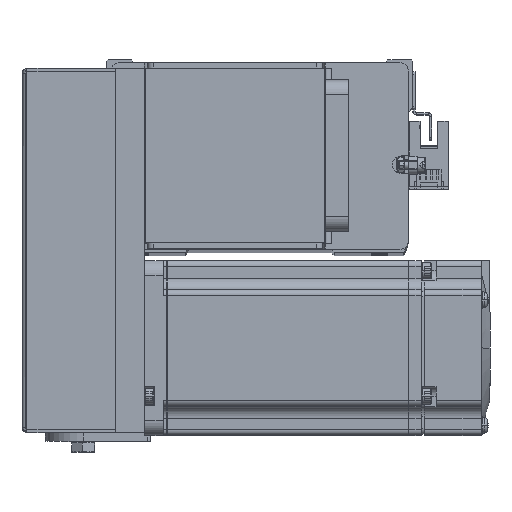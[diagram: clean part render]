
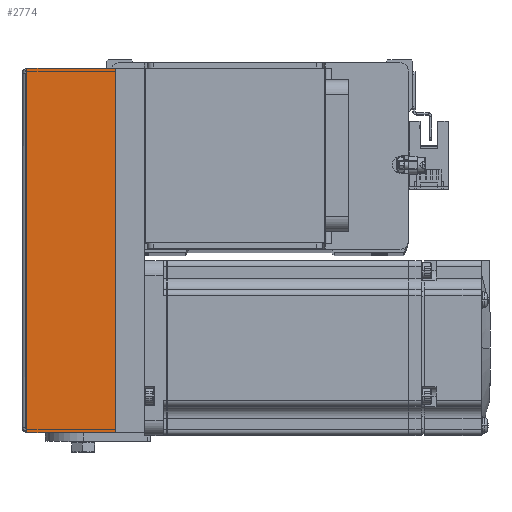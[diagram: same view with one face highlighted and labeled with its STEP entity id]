
A CAD part, top view. The second image highlights one B-rep face of the part: STEP entity #2774.
In plain terms, the highlighted planar face has unit normal (0, 0, 1) as drawn and (0, 0, -1) by its records, which use the part's own axes.
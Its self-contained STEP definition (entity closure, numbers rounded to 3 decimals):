
#37 = LINE ( 'NONE', #22104, #9825 ) ;
#2774 = ADVANCED_FACE ( 'NONE', ( #7478 ), #22849, .F. ) ;
#3214 = VERTEX_POINT ( 'NONE', #33152 ) ;
#4300 = VERTEX_POINT ( 'NONE', #32468 ) ;
#4425 = EDGE_CURVE ( 'NONE', #30185, #3214, #37, .T. ) ;
#6185 = AXIS2_PLACEMENT_3D ( 'NONE', #33446, #19280, #8439 ) ;
#7478 = FACE_OUTER_BOUND ( 'NONE', #36509, .T. ) ;
#8439 = DIRECTION ( 'NONE',  ( 0., 1., 0. ) ) ;
#8666 = CARTESIAN_POINT ( 'NONE',  ( 62.5, -30.3, -31. ) ) ;
#9825 = VECTOR ( 'NONE', #36780, 1000. ) ;
#10764 = EDGE_CURVE ( 'NONE', #12104, #30185, #14473, .T. ) ;
#12104 = VERTEX_POINT ( 'NONE', #44393 ) ;
#14473 = LINE ( 'NONE', #36592, #20874 ) ;
#15083 = LINE ( 'NONE', #25429, #35597 ) ;
#18059 = VECTOR ( 'NONE', #32782, 1000. ) ;
#19280 = DIRECTION ( 'NONE',  ( 0., 0., 1. ) ) ;
#20874 = VECTOR ( 'NONE', #25293, 1000. ) ;
#21732 = ORIENTED_EDGE ( 'NONE', *, *, #4425, .F. ) ;
#22104 = CARTESIAN_POINT ( 'NONE',  ( 62.5, -30.3, -31. ) ) ;
#22849 = PLANE ( 'NONE',  #6185 ) ;
#25293 = DIRECTION ( 'NONE',  ( 1., 0., 0. ) ) ;
#25429 = CARTESIAN_POINT ( 'NONE',  ( 0., 0., -31. ) ) ;
#27369 = EDGE_CURVE ( 'NONE', #12104, #4300, #43410, .T. ) ;
#29975 = DIRECTION ( 'NONE',  ( 1., 0., 0. ) ) ;
#30185 = VERTEX_POINT ( 'NONE', #8666 ) ;
#32468 = CARTESIAN_POINT ( 'NONE',  ( -62.5, 0., -31. ) ) ;
#32782 = DIRECTION ( 'NONE',  ( 0., 1., 0. ) ) ;
#33152 = CARTESIAN_POINT ( 'NONE',  ( 62.5, 0., -31. ) ) ;
#33446 = CARTESIAN_POINT ( 'NONE',  ( 0., -30.8, -31. ) ) ;
#33545 = ORIENTED_EDGE ( 'NONE', *, *, #27369, .T. ) ;
#35597 = VECTOR ( 'NONE', #29975, 1000. ) ;
#36509 = EDGE_LOOP ( 'NONE', ( #45434, #33545, #44569, #21732 ) ) ;
#36592 = CARTESIAN_POINT ( 'NONE',  ( 62.5, -30.3, -31. ) ) ;
#36780 = DIRECTION ( 'NONE',  ( 0., 1., 0. ) ) ;
#43109 = EDGE_CURVE ( 'NONE', #4300, #3214, #15083, .T. ) ;
#43410 = LINE ( 'NONE', #47026, #18059 ) ;
#44393 = CARTESIAN_POINT ( 'NONE',  ( -62.5, -30.3, -31. ) ) ;
#44569 = ORIENTED_EDGE ( 'NONE', *, *, #43109, .T. ) ;
#45434 = ORIENTED_EDGE ( 'NONE', *, *, #10764, .F. ) ;
#47026 = CARTESIAN_POINT ( 'NONE',  ( -62.5, -30.3, -31. ) ) ;
